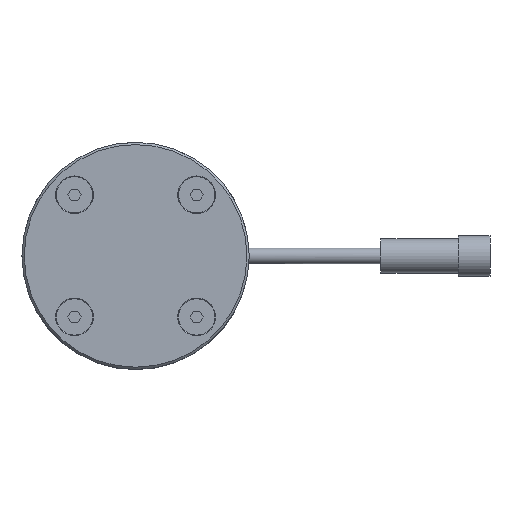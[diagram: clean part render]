
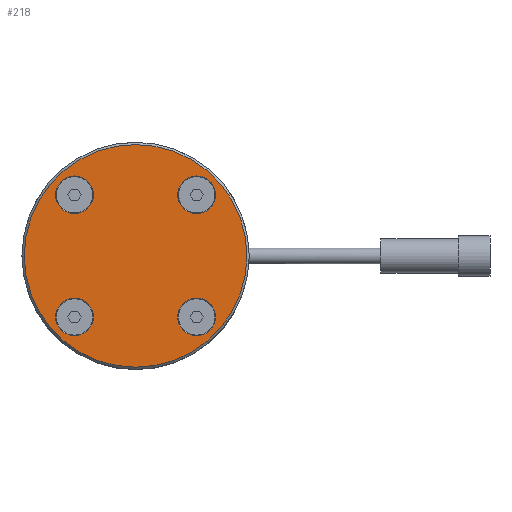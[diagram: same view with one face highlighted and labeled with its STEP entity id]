
A CAD part, top view. The second image highlights one B-rep face of the part: STEP entity #218.
In plain terms, the highlighted planar face has unit normal (0, 0, 1).
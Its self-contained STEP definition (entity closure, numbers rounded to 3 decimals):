
#218=ADVANCED_FACE('',(#597,#598,#599,#600,#601),#602,.F.);
#597=FACE_BOUND('',#1233,.T.);
#598=FACE_BOUND('',#1234,.T.);
#599=FACE_BOUND('',#1235,.T.);
#600=FACE_BOUND('',#1236,.T.);
#601=FACE_OUTER_BOUND('',#1237,.T.);
#602=PLANE('',#1238);
#1233=EDGE_LOOP('',(#1899));
#1234=EDGE_LOOP('',(#1900));
#1235=EDGE_LOOP('',(#1901));
#1236=EDGE_LOOP('',(#1902));
#1237=EDGE_LOOP('',(#1903));
#1238=AXIS2_PLACEMENT_3D('',#1904,#1905,#1906);
#1899=ORIENTED_EDGE('',*,*,#3029,.T.);
#1900=ORIENTED_EDGE('',*,*,#3030,.T.);
#1901=ORIENTED_EDGE('',*,*,#3031,.T.);
#1902=ORIENTED_EDGE('',*,*,#3032,.T.);
#1903=ORIENTED_EDGE('',*,*,#3027,.F.);
#1904=CARTESIAN_POINT('',(0.0,0.0,0.));
#1905=DIRECTION('',(-0.0,0.,-1.0));
#1906=DIRECTION('',(0.0,1.0,0.));
#3027=EDGE_CURVE('',#3463,#3463,#3464,.T.);
#3029=EDGE_CURVE('',#3466,#3466,#3467,.F.);
#3030=EDGE_CURVE('',#3468,#3468,#3469,.F.);
#3031=EDGE_CURVE('',#3470,#3470,#3471,.F.);
#3032=EDGE_CURVE('',#3472,#3472,#3473,.F.);
#3463=VERTEX_POINT('',#4070);
#3464=CIRCLE('',#4071,24.5);
#3466=VERTEX_POINT('',#4073);
#3467=CIRCLE('',#4074,4.15);
#3468=VERTEX_POINT('',#4075);
#3469=CIRCLE('',#4076,4.15);
#3470=VERTEX_POINT('',#4077);
#3471=CIRCLE('',#4078,4.15);
#3472=VERTEX_POINT('',#4079);
#3473=CIRCLE('',#4080,4.15);
#4070=CARTESIAN_POINT('',(0.0,24.5,0.));
#4071=AXIS2_PLACEMENT_3D('',#4974,#4975,#4976);
#4073=CARTESIAN_POINT('',(17.59,13.44,0.));
#4074=AXIS2_PLACEMENT_3D('',#4977,#4978,#4979);
#4075=CARTESIAN_POINT('',(17.59,-13.44,0.));
#4076=AXIS2_PLACEMENT_3D('',#4980,#4981,#4982);
#4077=CARTESIAN_POINT('',(-9.29,-13.44,0.));
#4078=AXIS2_PLACEMENT_3D('',#4983,#4984,#4985);
#4079=CARTESIAN_POINT('',(-9.29,13.44,0.));
#4080=AXIS2_PLACEMENT_3D('',#4986,#4987,#4988);
#4974=CARTESIAN_POINT('',(0.0,0.0,0.0));
#4975=DIRECTION('',(-0.0,0.,-1.0));
#4976=DIRECTION('',(0.0,1.0,0.));
#4977=CARTESIAN_POINT('',(13.44,13.44,0.));
#4978=DIRECTION('',(0.0,0.0,1.0));
#4979=DIRECTION('',(1.0,0.0,-0.0));
#4980=CARTESIAN_POINT('',(13.44,-13.44,0.));
#4981=DIRECTION('',(0.0,0.0,1.0));
#4982=DIRECTION('',(1.0,0.0,-0.0));
#4983=CARTESIAN_POINT('',(-13.44,-13.44,0.));
#4984=DIRECTION('',(0.0,0.0,1.0));
#4985=DIRECTION('',(1.0,0.0,-0.0));
#4986=CARTESIAN_POINT('',(-13.44,13.44,0.));
#4987=DIRECTION('',(0.0,0.0,1.0));
#4988=DIRECTION('',(1.0,0.0,-0.0));
